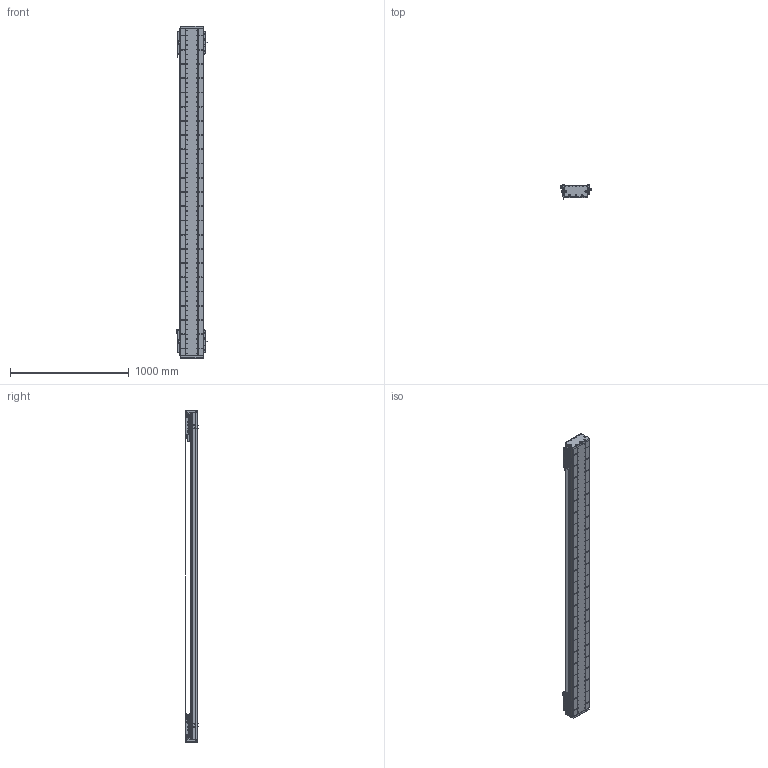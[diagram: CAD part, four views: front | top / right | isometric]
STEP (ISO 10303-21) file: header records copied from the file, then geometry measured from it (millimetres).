
FILE_DESCRIPTION (( 'STEP AP203' ), '1' );
FILE_NAME ('DA-C195-2-C2-T2300-C010-0.2 眻盄萇儂.STEP', '2025-08-14T02:10:24', ( '' ), ( '' ), 'SwSTEP 2.0', 'SolidWorks 2019', '' );
FILE_SCHEMA (( 'CONFIG_CONTROL_DESIGN' ));
Length unit declared in the file: millimetre
Products named in the file (19): DA195詩湍嶺輸-1; DA165-GYP-00 光电感应片(默认)-1; PM-Y65嫖萇羲壽郪璃-1; DKW-GYP-ZJ-00 笢潔嫖萇覜茼え-1; PM-T45ㄗ侂狟ㄘ-1; DA195詩湍裔啣-1; DKW-KGZ-ZJ-00 中间光电开关支架-1; DA-C195-GD-DB-H-00 傷啣-1; DA195詩湍郪璃-1; 葩璃 DA95-GT-T-00-1; DA-C195-2-C2-T2300-C010-0.2 眻盄萇儂; LMT黍杅芛-1; MS200 棠掑喜S315-T1740-1; DKW168-HXJ-ZJ-00 笢潔滅袉砎蝶-1; CU195-C2賑輸-俋楷-1; IU-CU195-L-00 菁釱(L2760); DA195詩湍菜輸-1; IU-CU195-L 菁釱絳寢-1; DA95-HXJ-00 遣喳砎蝶-1
Assembly tree (37 placements, depth 3):
  DA-C195-2-C2-T2300-C010-0.2 眻盄萇儂
    DA195詩湍郪璃-1
      DA195詩湍菜輸-1  x2
      DA195詩湍裔啣-1
      DA195詩湍嶺輸-1  x2
      DA95-HXJ-00 遣喳砎蝶-1  x8
      DA-C195-GD-DB-H-00 傷啣-1  x2
    IU-CU195-L 菁釱絳寢-1
      IU-CU195-L-00 菁釱(L2760)
      葩璃 DA95-GT-T-00-1  x4
    LMT黍杅芛-1  x2
    MS200 棠掑喜S315-T1740-1
    PM-T45ㄗ侂狟ㄘ-1  x4
    DA165-GYP-00 光电感应片(默认)-1  x2
    PM-Y65嫖萇羲壽郪璃-1
    DKW168-HXJ-ZJ-00 笢潔滅袉砎蝶-1
    DKW-GYP-ZJ-00 笢潔嫖萇覜茼え-1
    DKW-KGZ-ZJ-00 中间光电开关支架-1
    CU195-C2賑輸-俋楷-1  x2
Bounding box: 258.2 x 115.45 x 2800 mm (x, y, z)
Volume: 17168190.4 mm3; surface area: 4998855.7 mm2
Topology: 114 solids, 242 shells, 7075 faces, 18839 edges, 11729 vertices
Faces by surface type: cylinder 3364, plane 2627, cone 916, torus 88, sphere 72, bspline 8
Entity records: 154401 total; most frequent: CARTESIAN_POINT 41759, ORIENTED_EDGE 23510, DIRECTION 22450, EDGE_CURVE 11755, AXIS2_PLACEMENT_3D 8277, VERTEX_POINT 7616, LINE 5896, VECTOR 5896
